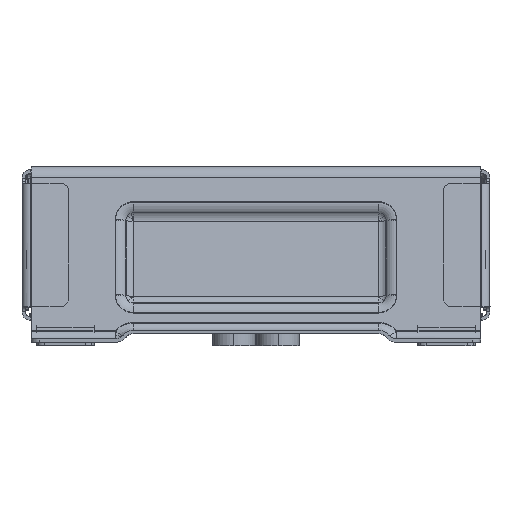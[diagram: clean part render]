
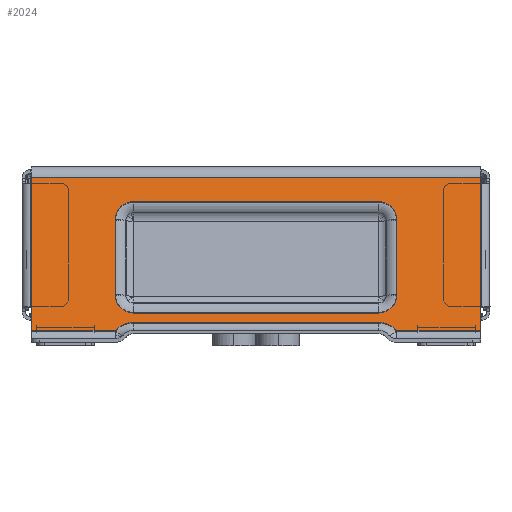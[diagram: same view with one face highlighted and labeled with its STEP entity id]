
A CAD part, left-side view. The second image highlights one B-rep face of the part: STEP entity #2024.
In plain terms, the highlighted planar face has unit normal (-0.979, 0, 0.203).
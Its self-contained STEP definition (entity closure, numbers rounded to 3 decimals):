
#1009=CARTESIAN_POINT('Vertex',(-493.095,-597.,9.683)) ;
#1012=CARTESIAN_POINT('Line Origine',(-483.738,-597.,54.853)) ;
#1016=CARTESIAN_POINT('Vertex',(-474.382,-597.,100.023)) ;
#1279=CARTESIAN_POINT('Vertex',(-474.382,-861.,100.023)) ;
#1282=CARTESIAN_POINT('Line Origine',(-483.738,-861.,54.853)) ;
#1286=CARTESIAN_POINT('Vertex',(-493.095,-861.,9.683)) ;
#1440=CARTESIAN_POINT('Line Origine',(-474.382,-729.,100.023)) ;
#1889=CARTESIAN_POINT('Vertex',(-493.095,-646.277,9.683)) ;
#1892=CARTESIAN_POINT('Line Origine',(-493.095,-729.,9.683)) ;
#1905=CARTESIAN_POINT('Axis2P3D Location',(-473.061,-729.,106.4)) ;
#1910=CARTESIAN_POINT('Line Origine',(-492.059,-729.,14.683)) ;
#1914=CARTESIAN_POINT('Vertex',(-492.059,-801.,14.683)) ;
#1916=CARTESIAN_POINT('Vertex',(-492.059,-657.,14.683)) ;
#1920=CARTESIAN_POINT('Control Point',(-493.095,-811.724,9.683)) ;
#1921=CARTESIAN_POINT('Control Point',(-492.893,-810.91,10.654)) ;
#1922=CARTESIAN_POINT('Control Point',(-492.711,-809.983,11.535)) ;
#1923=CARTESIAN_POINT('Control Point',(-492.551,-808.957,12.309)) ;
#1924=CARTESIAN_POINT('Control Point',(-492.293,-806.839,13.554)) ;
#1925=CARTESIAN_POINT('Control Point',(-492.135,-804.496,14.315)) ;
#1926=CARTESIAN_POINT('Control Point',(-492.084,-803.343,14.561)) ;
#1927=CARTESIAN_POINT('Control Point',(-492.059,-802.172,14.683)) ;
#1928=CARTESIAN_POINT('Control Point',(-492.059,-801.,14.683)) ;
#1929=CARTESIAN_POINT('Vertex',(-493.095,-811.724,9.683)) ;
#1932=CARTESIAN_POINT('Line Origine',(-493.095,-836.362,9.683)) ;
#1938=CARTESIAN_POINT('Control Point',(-492.059,-657.,14.683)) ;
#1939=CARTESIAN_POINT('Control Point',(-492.059,-655.729,14.683)) ;
#1940=CARTESIAN_POINT('Control Point',(-492.089,-654.457,14.539)) ;
#1941=CARTESIAN_POINT('Control Point',(-492.149,-653.208,14.249)) ;
#1942=CARTESIAN_POINT('Control Point',(-492.32,-650.885,13.425)) ;
#1943=CARTESIAN_POINT('Control Point',(-492.589,-648.805,12.124)) ;
#1944=CARTESIAN_POINT('Control Point',(-492.74,-647.873,11.396)) ;
#1945=CARTESIAN_POINT('Control Point',(-492.909,-647.028,10.578)) ;
#1946=CARTESIAN_POINT('Control Point',(-493.095,-646.277,9.683)) ;
#1958=CARTESIAN_POINT('Line Origine',(-477.377,-729.,85.561)) ;
#1962=CARTESIAN_POINT('Vertex',(-477.377,-801.,85.561)) ;
#1964=CARTESIAN_POINT('Vertex',(-477.377,-657.,85.561)) ;
#1967=CARTESIAN_POINT('Axis2P3D Location',(-479.552,-801.,75.06)) ;
#1971=CARTESIAN_POINT('Vertex',(-479.552,-811.724,75.06)) ;
#1974=CARTESIAN_POINT('Line Origine',(-484.11,-811.724,53.06)) ;
#1978=CARTESIAN_POINT('Vertex',(-488.667,-811.724,31.06)) ;
#1981=CARTESIAN_POINT('Axis2P3D Location',(-488.667,-801.,31.06)) ;
#1985=CARTESIAN_POINT('Vertex',(-490.842,-801.,20.559)) ;
#1988=CARTESIAN_POINT('Line Origine',(-490.842,-729.,20.559)) ;
#1992=CARTESIAN_POINT('Vertex',(-490.842,-657.,20.559)) ;
#1995=CARTESIAN_POINT('Axis2P3D Location',(-488.667,-657.,31.06)) ;
#1999=CARTESIAN_POINT('Vertex',(-488.667,-646.277,31.06)) ;
#2002=CARTESIAN_POINT('Line Origine',(-484.11,-646.277,53.06)) ;
#2006=CARTESIAN_POINT('Vertex',(-479.552,-646.277,75.06)) ;
#2009=CARTESIAN_POINT('Axis2P3D Location',(-479.552,-657.,75.06)) ;
#1013=DIRECTION('Vector Direction',(-0.203,0.,-0.979)) ;
#1283=DIRECTION('Vector Direction',(-0.203,0.,-0.979)) ;
#1441=DIRECTION('Vector Direction',(0.,1.,0.)) ;
#1893=DIRECTION('Vector Direction',(0.,1.,0.)) ;
#1906=DIRECTION('Axis2P3D Direction',(0.979,0.,-0.203)) ;
#1907=DIRECTION('Axis2P3D XDirection',(-0.203,0.,-0.979)) ;
#1911=DIRECTION('Vector Direction',(0.,-1.,0.)) ;
#1933=DIRECTION('Vector Direction',(0.,1.,0.)) ;
#1959=DIRECTION('Vector Direction',(0.,-1.,0.)) ;
#1968=DIRECTION('Axis2P3D Direction',(0.979,0.,-0.203)) ;
#1975=DIRECTION('Vector Direction',(-0.203,0.,-0.979)) ;
#1982=DIRECTION('Axis2P3D Direction',(0.979,0.,-0.203)) ;
#1989=DIRECTION('Vector Direction',(0.,1.,0.)) ;
#1996=DIRECTION('Axis2P3D Direction',(0.979,0.,-0.203)) ;
#2003=DIRECTION('Vector Direction',(0.203,0.,0.979)) ;
#2010=DIRECTION('Axis2P3D Direction',(0.979,0.,-0.203)) ;
#1908=AXIS2_PLACEMENT_3D('Plane Axis2P3D',#1905,#1906,#1907) ;
#1969=AXIS2_PLACEMENT_3D('Circle Axis2P3D',#1967,#1968,$) ;
#1983=AXIS2_PLACEMENT_3D('Circle Axis2P3D',#1981,#1982,$) ;
#1997=AXIS2_PLACEMENT_3D('Circle Axis2P3D',#1995,#1996,$) ;
#2011=AXIS2_PLACEMENT_3D('Circle Axis2P3D',#2009,#2010,$) ;
#1949=ORIENTED_EDGE('',*,*,#1918,.F.) ;
#1950=ORIENTED_EDGE('',*,*,#1931,.F.) ;
#1951=ORIENTED_EDGE('',*,*,#1936,.F.) ;
#1952=ORIENTED_EDGE('',*,*,#1288,.F.) ;
#1953=ORIENTED_EDGE('',*,*,#1444,.T.) ;
#1954=ORIENTED_EDGE('',*,*,#1018,.T.) ;
#1955=ORIENTED_EDGE('',*,*,#1896,.F.) ;
#1956=ORIENTED_EDGE('',*,*,#1947,.F.) ;
#2015=ORIENTED_EDGE('',*,*,#1966,.F.) ;
#2016=ORIENTED_EDGE('',*,*,#1973,.F.) ;
#2017=ORIENTED_EDGE('',*,*,#1980,.F.) ;
#2018=ORIENTED_EDGE('',*,*,#1987,.F.) ;
#2019=ORIENTED_EDGE('',*,*,#1994,.F.) ;
#2020=ORIENTED_EDGE('',*,*,#2001,.F.) ;
#2021=ORIENTED_EDGE('',*,*,#2008,.F.) ;
#2022=ORIENTED_EDGE('',*,*,#2013,.F.) ;
#2023=FACE_BOUND('',#2014,.T.) ;
#1014=VECTOR('Line Direction',#1013,1.) ;
#1284=VECTOR('Line Direction',#1283,1.) ;
#1442=VECTOR('Line Direction',#1441,1.) ;
#1894=VECTOR('Line Direction',#1893,1.) ;
#1912=VECTOR('Line Direction',#1911,1.) ;
#1934=VECTOR('Line Direction',#1933,1.) ;
#1960=VECTOR('Line Direction',#1959,1.) ;
#1976=VECTOR('Line Direction',#1975,1.) ;
#1990=VECTOR('Line Direction',#1989,1.) ;
#2004=VECTOR('Line Direction',#2003,1.) ;
#2024=ADVANCED_FACE('SHT0016014.1\\SHT0016145-\X2\5BBD8F664E3B9A7E9A76524D4FA794A391D1\X0\',(#1957,#2023),#1909,.F.) ;
#1919=B_SPLINE_CURVE_WITH_KNOTS('',5,(#1920,#1921,#1922,#1923,#1924,#1925,#1926,#1927,#1928),.UNSPECIFIED.,.F.,.U.,(6,3,6),(0.,9.094,17.391),.UNSPECIFIED.) ;
#1937=B_SPLINE_CURVE_WITH_KNOTS('',5,(#1938,#1939,#1940,#1941,#1942,#1943,#1944,#1945,#1946),.UNSPECIFIED.,.F.,.U.,(6,3,6),(0.,9.011,17.391),.UNSPECIFIED.) ;
#1970=CIRCLE('generated circle',#1969,10.724) ;
#1984=CIRCLE('generated circle',#1983,10.724) ;
#1998=CIRCLE('generated circle',#1997,10.724) ;
#2012=CIRCLE('generated circle',#2011,10.724) ;
#1018=EDGE_CURVE('',#1017,#1010,#1015,.T.) ;
#1288=EDGE_CURVE('',#1280,#1287,#1285,.T.) ;
#1444=EDGE_CURVE('',#1280,#1017,#1443,.T.) ;
#1896=EDGE_CURVE('',#1890,#1010,#1895,.T.) ;
#1918=EDGE_CURVE('',#1915,#1917,#1913,.F.) ;
#1931=EDGE_CURVE('',#1930,#1915,#1919,.T.) ;
#1936=EDGE_CURVE('',#1287,#1930,#1935,.T.) ;
#1947=EDGE_CURVE('',#1917,#1890,#1937,.T.) ;
#1966=EDGE_CURVE('',#1963,#1965,#1961,.F.) ;
#1973=EDGE_CURVE('',#1972,#1963,#1970,.F.) ;
#1980=EDGE_CURVE('',#1979,#1972,#1977,.F.) ;
#1987=EDGE_CURVE('',#1986,#1979,#1984,.F.) ;
#1994=EDGE_CURVE('',#1993,#1986,#1991,.F.) ;
#2001=EDGE_CURVE('',#2000,#1993,#1998,.F.) ;
#2008=EDGE_CURVE('',#2007,#2000,#2005,.F.) ;
#2013=EDGE_CURVE('',#1965,#2007,#2012,.F.) ;
#1948=EDGE_LOOP('',(#1949,#1950,#1951,#1952,#1953,#1954,#1955,#1956)) ;
#2014=EDGE_LOOP('',(#2015,#2016,#2017,#2018,#2019,#2020,#2021,#2022)) ;
#1957=FACE_OUTER_BOUND('',#1948,.T.) ;
#1015=LINE('Line',#1012,#1014) ;
#1285=LINE('Line',#1282,#1284) ;
#1443=LINE('Line',#1440,#1442) ;
#1895=LINE('Line',#1892,#1894) ;
#1913=LINE('Line',#1910,#1912) ;
#1935=LINE('Line',#1932,#1934) ;
#1961=LINE('Line',#1958,#1960) ;
#1977=LINE('Line',#1974,#1976) ;
#1991=LINE('Line',#1988,#1990) ;
#2005=LINE('Line',#2002,#2004) ;
#1909=PLANE('Plane',#1908) ;
#1010=VERTEX_POINT('',#1009) ;
#1017=VERTEX_POINT('',#1016) ;
#1280=VERTEX_POINT('',#1279) ;
#1287=VERTEX_POINT('',#1286) ;
#1890=VERTEX_POINT('',#1889) ;
#1915=VERTEX_POINT('',#1914) ;
#1917=VERTEX_POINT('',#1916) ;
#1930=VERTEX_POINT('',#1929) ;
#1963=VERTEX_POINT('',#1962) ;
#1965=VERTEX_POINT('',#1964) ;
#1972=VERTEX_POINT('',#1971) ;
#1979=VERTEX_POINT('',#1978) ;
#1986=VERTEX_POINT('',#1985) ;
#1993=VERTEX_POINT('',#1992) ;
#2000=VERTEX_POINT('',#1999) ;
#2007=VERTEX_POINT('',#2006) ;
